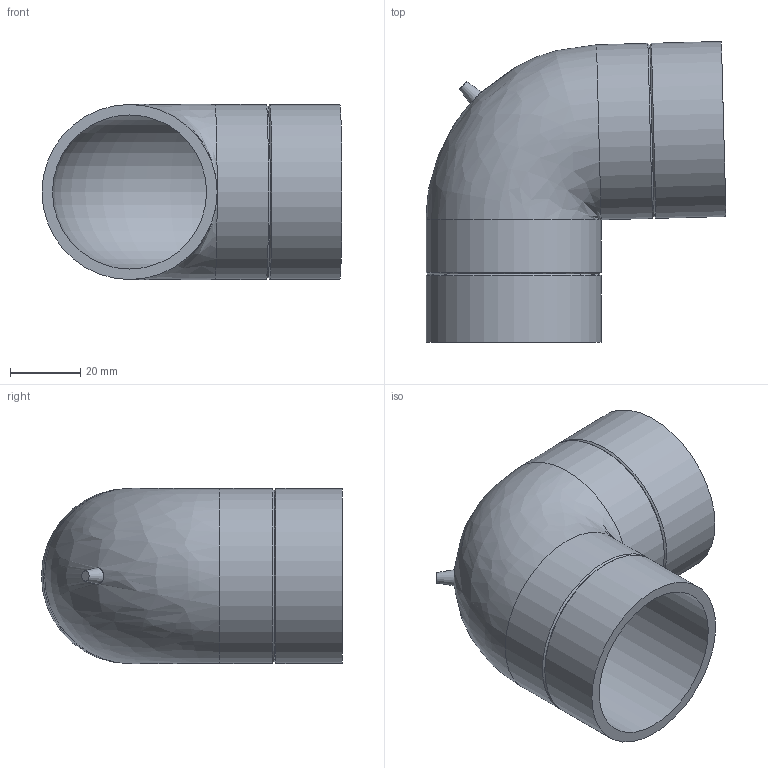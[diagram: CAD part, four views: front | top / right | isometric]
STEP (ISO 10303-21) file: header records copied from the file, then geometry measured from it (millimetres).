
FILE_DESCRIPTION(/* description */ (''),/* implementation_level */ '2;1');
FILE_NAME(/* name */ 'Z:\Geberit\Export\NewStep\361088.stp',/* time_stamp */ '2014-04-01T21:03:00+02:00',/* author */ ('nelson'),/* organization */ (''),/* preprocessor_version */ 'ST-DEVELOPER v15.2',/* originating_system */ 'Autodesk Inventor 2014',/* authorisation */ '');
FILE_SCHEMA (('AUTOMOTIVE_DESIGN { 1 0 10303 214 3 1 1 }'));
Length unit declared in the file: millimetre
Products named in the file (1): 361088
Bounding box: 85.65 x 85.93 x 50 mm (x, y, z)
Volume: 48551.4 mm3; surface area: 33353.6 mm2
Topology: 1 solids, 1 shells, 16 faces, 34 edges, 19 vertices
Faces by surface type: cylinder 6, cone 5, plane 3, torus 1, bspline 1
Full cylindrical faces by diameter (mm): 44 x2, 50 x4
Entity records: 459 total; most frequent: CARTESIAN_POINT 169, DIRECTION 62, ORIENTED_EDGE 32, EDGE_LOOP 31, AXIS2_PLACEMENT_3D 31, FACE_BOUND 18, EDGE_CURVE 16, ADVANCED_FACE 16
